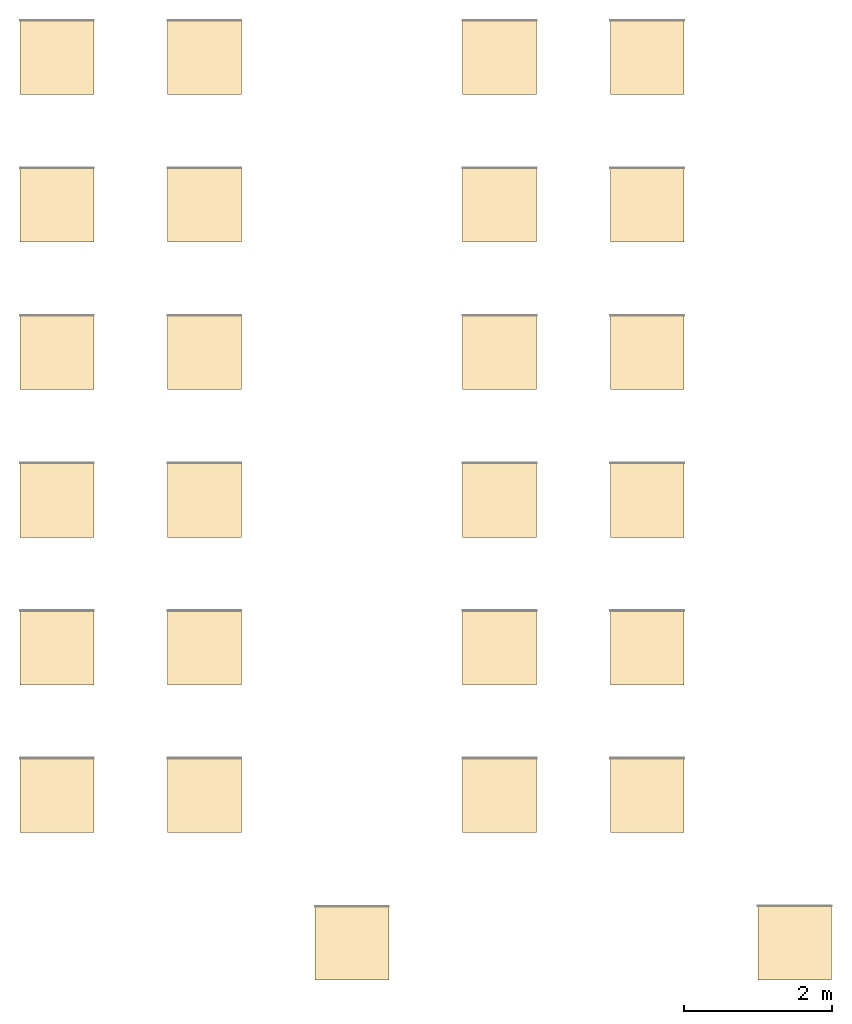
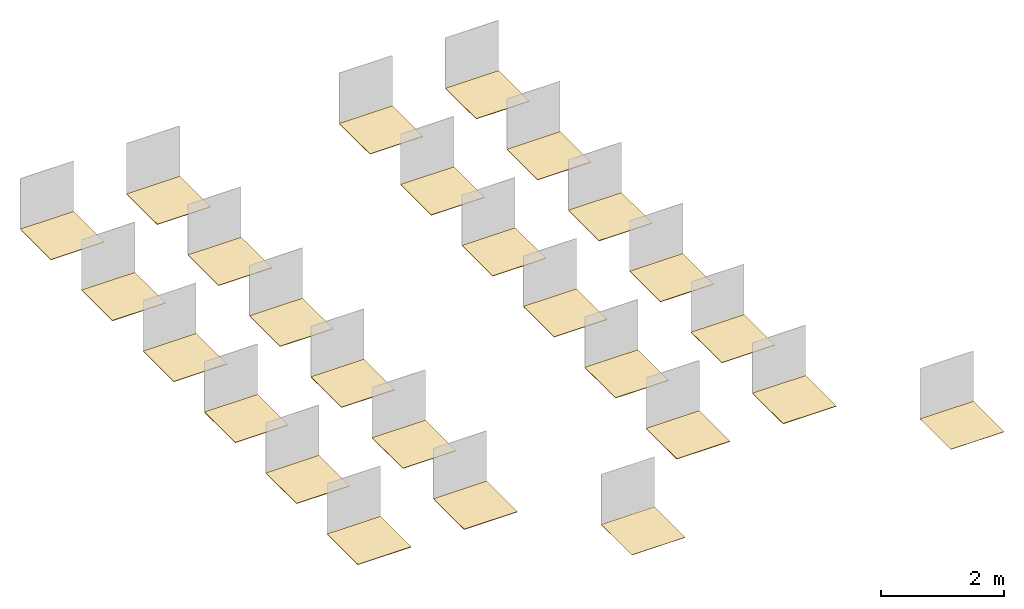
# One storey, part 2 of 2: 26 coverings.
"""IFC2X3 building model written with IfcOpenShell, lengths in millimetres."""

from ifc_helpers import new_model, entity, si_unit, converted_unit, derived_unit, direction, frame, frame_2d, origin, origin_2d_with_axis, place, context, subcontext, project, spatial, rectangle, extrude, material, layer, layer_set, layer_usage, type_object, element, save


model = new_model("IFC2X3")

# Units and contexts
model_context = context("Model", 3, precision=0.01, world=origin(), true_north=direction((6.12303176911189e-17, 1.0)))
body_context = subcontext(model_context, "Body", "Model", "MODEL_VIEW")
ifc_project = project(units=[si_unit("LENGTHUNIT", "METRE", prefix="MILLI"), si_unit("AREAUNIT", "SQUARE_METRE"), si_unit("VOLUMEUNIT", "CUBIC_METRE"), converted_unit("PLANEANGLEUNIT", "DEGREE", entity("IfcRatioMeasure", 0.0174532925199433), si_unit("PLANEANGLEUNIT", "RADIAN"), dimensions=[0, 0, 0, 0, 0, 0, 0]), si_unit("MASSUNIT", "GRAM", prefix="KILO"), derived_unit("MASSDENSITYUNIT", [(si_unit("MASSUNIT", "GRAM", prefix="KILO"), 1), (si_unit("LENGTHUNIT", "METRE"), -3)]), derived_unit("MOMENTOFINERTIAUNIT", [(si_unit("LENGTHUNIT", "METRE"), 4)]), si_unit("TIMEUNIT", "SECOND"), si_unit("FREQUENCYUNIT", "HERTZ"), si_unit("THERMODYNAMICTEMPERATUREUNIT", "DEGREE_CELSIUS"), derived_unit("THERMALTRANSMITTANCEUNIT", [(si_unit("MASSUNIT", "GRAM", prefix="KILO"), 1), (si_unit("THERMODYNAMICTEMPERATUREUNIT", "KELVIN"), -1), (si_unit("TIMEUNIT", "SECOND"), -3)]), derived_unit("VOLUMETRICFLOWRATEUNIT", [(si_unit("LENGTHUNIT", "METRE"), 3), (si_unit("TIMEUNIT", "SECOND"), -1)]), si_unit("ELECTRICCURRENTUNIT", "AMPERE"), si_unit("ELECTRICVOLTAGEUNIT", "VOLT"), si_unit("POWERUNIT", "WATT"), si_unit("FORCEUNIT", "NEWTON", prefix="KILO"), si_unit("ILLUMINANCEUNIT", "LUX"), si_unit("LUMINOUSFLUXUNIT", "LUMEN"), si_unit("LUMINOUSINTENSITYUNIT", "CANDELA"), derived_unit("USERDEFINED", [(si_unit("MASSUNIT", "GRAM", prefix="KILO"), -1), (si_unit("LENGTHUNIT", "METRE"), -2), (si_unit("TIMEUNIT", "SECOND"), 3), (si_unit("LUMINOUSFLUXUNIT", "LUMEN"), 1)]), derived_unit("LINEARVELOCITYUNIT", [(si_unit("LENGTHUNIT", "METRE"), 1), (si_unit("TIMEUNIT", "SECOND"), -1)]), si_unit("PRESSUREUNIT", "PASCAL"), derived_unit("USERDEFINED", [(si_unit("LENGTHUNIT", "METRE"), -2), (si_unit("MASSUNIT", "GRAM", prefix="KILO"), 1), (si_unit("TIMEUNIT", "SECOND"), -2)]), derived_unit("LINEARFORCEUNIT", [(si_unit("MASSUNIT", "GRAM", prefix="KILO"), 1), (si_unit("LENGTHUNIT", "METRE"), 1), (si_unit("TIMEUNIT", "SECOND"), -2), (si_unit("LENGTHUNIT", "METRE"), -1)]), derived_unit("PLANARFORCEUNIT", [(si_unit("MASSUNIT", "GRAM", prefix="KILO"), 1), (si_unit("LENGTHUNIT", "METRE"), 1), (si_unit("TIMEUNIT", "SECOND"), -2), (si_unit("LENGTHUNIT", "METRE"), -2)])], contexts=[model_context])

# Site, building, storey
site_placement = place(None, origin())
site = spatial("IfcSite", under=ifc_project, at=site_placement, Name="Default", CompositionType="ELEMENT")
building_placement = place(site_placement, origin())
building = spatial("IfcBuilding", under=site, at=building_placement, CompositionType="ELEMENT")
storey_placement = place(building_placement, origin())
storey = spatial("IfcBuildingStorey", under=building, at=storey_placement, Name="Level 1", CompositionType="ELEMENT", Elevation=0.0)

# Coverings
ifc_material_1 = material(Name="REVIGRÉS-RULE-BASE-19.6x118.6-SILK-ALLOY")
ifc_layer_1 = layer(ifc_material_1, 10.5)
ifc_layer_set_1 = layer_set([ifc_layer_1], Name="Floor:REVIGRÉS-RULE-BASE-19,6x118,6-SILK-ALLOY")
ifc_layer_usage_1 = layer_usage(ifc_layer_set_1, "AXIS3", "POSITIVE", 0.0)
covering_type_1 = type_object("IfcCoveringType", Name="Floor:REVIGRÉS-RULE-BASE-19,6x118,6-SILK-ALLOY", PredefinedType="FLOORING", material=ifc_layer_set_1)
covering_1_placement = place(storey_placement, origin())
element("IfcCovering", 1, at=covering_1_placement, inside=storey, type_object=covering_type_1, material=ifc_layer_usage_1, Name="Floor:REVIGRÉS-RULE-BASE-19,6x118,6-SILK-ALLOY:2489", ObjectType="Floor:REVIGRÉS-RULE-BASE-19,6x118,6-SILK-ALLOY", PredefinedType="FLOORING", context=body_context, shape_type="SweptSolid", body=[
    extrude(rectangle(XDim=1000.0, YDim=1000.0, at=frame_2d((-1.08002495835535e-12, 0.0), x_axis=(1.0, 0.0))), frame((605.346935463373, 18520.3776243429, 0.0), z_axis=(0.0, 0.0, -1.0), x_axis=(0.0, 1.0, 0.0)), (0.0, 0.0, 1.0), 10.5),
])
ifc_material_2 = material(Name="REVIGRÉS-RULE-BASE-19.6x118.6-SILK-SMOG")
ifc_layer_2 = layer(ifc_material_2, 10.5)
ifc_layer_set_2 = layer_set([ifc_layer_2], Name="Floor:REVIGRÉS-RULE-BASE-19,6x118,6-SILK-SMOG")
ifc_layer_usage_2 = layer_usage(ifc_layer_set_2, "AXIS3", "POSITIVE", 0.0)
covering_type_2 = type_object("IfcCoveringType", Name="Floor:REVIGRÉS-RULE-BASE-19,6x118,6-SILK-SMOG", PredefinedType="FLOORING", material=ifc_layer_set_2)
covering_2_placement = place(storey_placement, origin())
element("IfcCovering", 2, at=covering_2_placement, inside=storey, type_object=covering_type_2, material=ifc_layer_usage_2, Name="Floor:REVIGRÉS-RULE-BASE-19,6x118,6-SILK-SMOG", ObjectType="Floor:REVIGRÉS-RULE-BASE-19,6x118,6-SILK-SMOG", PredefinedType="FLOORING", context=body_context, shape_type="SweptSolid", body=[
    extrude(rectangle(XDim=1000.0, YDim=1000.0, at=frame_2d((1.08002495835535e-12, 0.0), x_axis=(1.0, 0.0))), frame((6605.34693546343, 18520.3776243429, 0.0), z_axis=(0.0, 0.0, -1.0), x_axis=(0.0, 1.0, 0.0)), (0.0, 0.0, 1.0), 10.5),
])
ifc_material_3 = material(Name="REVIGRÉS-RULE-BASE-19.6x118.6-SOFT GRIP-ALLOY")
ifc_layer_3 = layer(ifc_material_3, 10.5)
ifc_layer_set_3 = layer_set([ifc_layer_3], Name="Floor:REVIGRÉS-RULE-BASE-19,6x118,6-SOFT GRIP-ALLOY")
ifc_layer_usage_3 = layer_usage(ifc_layer_set_3, "AXIS3", "POSITIVE", 0.0)
covering_type_3 = type_object("IfcCoveringType", Name="Floor:REVIGRÉS-RULE-BASE-19,6x118,6-SOFT GRIP-ALLOY", PredefinedType="FLOORING", material=ifc_layer_set_3)
covering_3_placement = place(storey_placement, origin())
element("IfcCovering", 3, at=covering_3_placement, inside=storey, type_object=covering_type_3, material=ifc_layer_usage_3, Name="Floor:REVIGRÉS-RULE-BASE-19,6x118,6-SOFT GRIP-ALLOY", ObjectType="Floor:REVIGRÉS-RULE-BASE-19,6x118,6-SOFT GRIP-ALLOY", PredefinedType="FLOORING", context=body_context, shape_type="SweptSolid", body=[
    extrude(rectangle(XDim=1000.0, YDim=1000.0, at=frame_2d((1.08002495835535e-12, 0.0), x_axis=(1.0, 0.0))), frame((2605.34693546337, 18520.3776243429, 0.0), z_axis=(0.0, 0.0, -1.0), x_axis=(0.0, 1.0, 0.0)), (0.0, 0.0, 1.0), 10.5),
])
ifc_material_4 = material(Name="REVIGRÉS-RULE-BASE-19.6x118.6-SOFT GRIP-SMOG")
ifc_layer_4 = layer(ifc_material_4, 10.5)
ifc_layer_set_4 = layer_set([ifc_layer_4], Name="Floor:REVIGRÉS-RULE-BASE-19,6x118,6-SOFT GRIP-SMOG")
ifc_layer_usage_4 = layer_usage(ifc_layer_set_4, "AXIS3", "POSITIVE", 0.0)
covering_type_4 = type_object("IfcCoveringType", Name="Floor:REVIGRÉS-RULE-BASE-19,6x118,6-SOFT GRIP-SMOG", PredefinedType="FLOORING", material=ifc_layer_set_4)
covering_4_placement = place(storey_placement, origin())
element("IfcCovering", 4, at=covering_4_placement, inside=storey, type_object=covering_type_4, material=ifc_layer_usage_4, Name="Floor:REVIGRÉS-RULE-BASE-19,6x118,6-SOFT GRIP-SMOG", ObjectType="Floor:REVIGRÉS-RULE-BASE-19,6x118,6-SOFT GRIP-SMOG", PredefinedType="FLOORING", context=body_context, shape_type="SweptSolid", body=[
    extrude(rectangle(XDim=1000.0, YDim=1000.0, at=frame_2d((1.08002495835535e-12, 0.0), x_axis=(1.0, 0.0))), frame((8605.3469354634, 18520.3776243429, 0.0), z_axis=(0.0, 0.0, -1.0), x_axis=(0.0, 1.0, 0.0)), (0.0, 0.0, 1.0), 10.5),
])
ifc_material_5 = material(Name="REVIGRÉS-RULE-BASE-19.6x178-SILK-ALLOY")
ifc_layer_5 = layer(ifc_material_5, 11.2)
ifc_layer_set_5 = layer_set([ifc_layer_5], Name="Floor:REVIGRÉS-RULE-BASE-19,6x178-SILK-ALLOY")
ifc_layer_usage_5 = layer_usage(ifc_layer_set_5, "AXIS3", "POSITIVE", 0.0)
covering_type_5 = type_object("IfcCoveringType", Name="Floor:REVIGRÉS-RULE-BASE-19,6x178-SILK-ALLOY", PredefinedType="FLOORING", material=ifc_layer_set_5)
covering_5_placement = place(storey_placement, origin())
element("IfcCovering", 5, at=covering_5_placement, inside=storey, type_object=covering_type_5, material=ifc_layer_usage_5, Name="Floor:REVIGRÉS-RULE-BASE-19,6x178-SILK-ALLOY", ObjectType="Floor:REVIGRÉS-RULE-BASE-19,6x178-SILK-ALLOY", PredefinedType="FLOORING", context=body_context, shape_type="SweptSolid", body=[
    extrude(rectangle(XDim=1000.0, YDim=1000.0, at=frame_2d((-1.08002495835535e-12, 0.0), x_axis=(1.0, 0.0))), frame((605.346935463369, 16520.3776243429, 0.0), z_axis=(0.0, 0.0, -1.0), x_axis=(0.0, 1.0, 0.0)), (0.0, 0.0, 1.0), 11.2),
])
ifc_material_6 = material(Name="REVIGRÉS-RULE-BASE-19.6x178-SILK-SMOG")
ifc_layer_6 = layer(ifc_material_6, 11.2)
ifc_layer_set_6 = layer_set([ifc_layer_6], Name="Floor:REVIGRÉS-RULE-BASE-19,6x178-SILK-SMOG")
ifc_layer_usage_6 = layer_usage(ifc_layer_set_6, "AXIS3", "POSITIVE", 0.0)
covering_type_6 = type_object("IfcCoveringType", Name="Floor:REVIGRÉS-RULE-BASE-19,6x178-SILK-SMOG", PredefinedType="FLOORING", material=ifc_layer_set_6)
covering_6_placement = place(storey_placement, origin())
element("IfcCovering", 6, at=covering_6_placement, inside=storey, type_object=covering_type_6, material=ifc_layer_usage_6, Name="Floor:REVIGRÉS-RULE-BASE-19,6x178-SILK-SMOG", ObjectType="Floor:REVIGRÉS-RULE-BASE-19,6x178-SILK-SMOG", PredefinedType="FLOORING", context=body_context, shape_type="SweptSolid", body=[
    extrude(rectangle(XDim=1000.0, YDim=1000.0, at=frame_2d((1.08002495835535e-12, 0.0), x_axis=(1.0, 0.0))), frame((6605.3469354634, 16520.3776243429, 0.0), z_axis=(0.0, 0.0, -1.0), x_axis=(0.0, 1.0, 0.0)), (0.0, 0.0, 1.0), 11.2),
])
ifc_material_7 = material(Name="REVIGRÉS-RULE-BASE-19.6x178-SOFT GRIP-ALLOY")
ifc_layer_7 = layer(ifc_material_7, 11.2)
ifc_layer_set_7 = layer_set([ifc_layer_7], Name="Floor:REVIGRÉS-RULE-BASE-19,6x178-SOFT GRIP-ALLOY")
ifc_layer_usage_7 = layer_usage(ifc_layer_set_7, "AXIS3", "POSITIVE", 0.0)
covering_type_7 = type_object("IfcCoveringType", Name="Floor:REVIGRÉS-RULE-BASE-19,6x178-SOFT GRIP-ALLOY", PredefinedType="FLOORING", material=ifc_layer_set_7)
covering_7_placement = place(storey_placement, origin())
element("IfcCovering", 7, at=covering_7_placement, inside=storey, type_object=covering_type_7, material=ifc_layer_usage_7, Name="Floor:REVIGRÉS-RULE-BASE-19,6x178-SOFT GRIP-ALLOY", ObjectType="Floor:REVIGRÉS-RULE-BASE-19,6x178-SOFT GRIP-ALLOY", PredefinedType="FLOORING", context=body_context, shape_type="SweptSolid", body=[
    extrude(rectangle(XDim=1000.0, YDim=1000.0, at=frame_2d((1.08002495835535e-12, 0.0), x_axis=(1.0, 0.0))), frame((2605.34693546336, 16520.3776243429, 0.0), z_axis=(0.0, 0.0, -1.0), x_axis=(0.0, 1.0, 0.0)), (0.0, 0.0, 1.0), 11.2),
])
ifc_material_8 = material(Name="REVIGRÉS-RULE-BASE-19.6x178-SOFT GRIP-SMOG")
ifc_layer_8 = layer(ifc_material_8, 11.2)
ifc_layer_set_8 = layer_set([ifc_layer_8], Name="Floor:REVIGRÉS-RULE-BASE-19,6x178-SOFT GRIP-SMOG")
ifc_layer_usage_8 = layer_usage(ifc_layer_set_8, "AXIS3", "POSITIVE", 0.0)
covering_type_8 = type_object("IfcCoveringType", Name="Floor:REVIGRÉS-RULE-BASE-19,6x178-SOFT GRIP-SMOG", PredefinedType="FLOORING", material=ifc_layer_set_8)
covering_8_placement = place(storey_placement, origin())
element("IfcCovering", 8, at=covering_8_placement, inside=storey, type_object=covering_type_8, material=ifc_layer_usage_8, Name="Floor:REVIGRÉS-RULE-BASE-19,6x178-SOFT GRIP-SMOG", ObjectType="Floor:REVIGRÉS-RULE-BASE-19,6x178-SOFT GRIP-SMOG", PredefinedType="FLOORING", context=body_context, shape_type="SweptSolid", body=[
    extrude(rectangle(XDim=1000.0, YDim=1000.0, at=frame_2d((-1.08002495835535e-12, 0.0), x_axis=(1.0, 0.0))), frame((8605.3469354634, 16520.3776243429, 0.0), z_axis=(0.0, 0.0, -1.0), x_axis=(0.0, 1.0, 0.0)), (0.0, 0.0, 1.0), 11.2),
])
ifc_material_9 = material(Name="REVIGRÉS-RULE-BASE-29.5x118.6-SILK-ALLOY")
ifc_layer_9 = layer(ifc_material_9, 10.5)
ifc_layer_set_9 = layer_set([ifc_layer_9], Name="Floor:REVIGRÉS-RULE-BASE-29,5x118,6-SILK-ALLOY")
ifc_layer_usage_9 = layer_usage(ifc_layer_set_9, "AXIS3", "POSITIVE", 0.0)
covering_type_9 = type_object("IfcCoveringType", Name="Floor:REVIGRÉS-RULE-BASE-29,5x118,6-SILK-ALLOY", PredefinedType="FLOORING", material=ifc_layer_set_9)
covering_9_placement = place(storey_placement, origin())
element("IfcCovering", 9, at=covering_9_placement, inside=storey, type_object=covering_type_9, material=ifc_layer_usage_9, Name="Floor:REVIGRÉS-RULE-BASE-29,5x118,6-SILK-ALLOY", ObjectType="Floor:REVIGRÉS-RULE-BASE-29,5x118,6-SILK-ALLOY", PredefinedType="FLOORING", context=body_context, shape_type="SweptSolid", body=[
    extrude(rectangle(XDim=1000.0, YDim=1000.0, at=frame_2d((-1.08002495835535e-12, 0.0), x_axis=(1.0, 0.0))), frame((605.346935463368, 14520.3776243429, 0.0), z_axis=(0.0, 0.0, -1.0), x_axis=(0.0, 1.0, 0.0)), (0.0, 0.0, 1.0), 10.5),
])
ifc_material_10 = material(Name="REVIGRÉS-RULE-BASE-29.5x118.6-SOFT GRIP-ALLOY")
ifc_layer_10 = layer(ifc_material_10, 10.5)
ifc_layer_set_10 = layer_set([ifc_layer_10], Name="Floor:REVIGRÉS-RULE-BASE-29,5x118,6-SOFT GRIP-ALLOY")
ifc_layer_usage_10 = layer_usage(ifc_layer_set_10, "AXIS3", "POSITIVE", 0.0)
covering_type_10 = type_object("IfcCoveringType", Name="Floor:REVIGRÉS-RULE-BASE-29,5x118,6-SOFT GRIP-ALLOY", PredefinedType="FLOORING", material=ifc_layer_set_10)
covering_10_placement = place(storey_placement, origin())
element("IfcCovering", 10, at=covering_10_placement, inside=storey, type_object=covering_type_10, material=ifc_layer_usage_10, Name="Floor:REVIGRÉS-RULE-BASE-29,5x118,6-SOFT GRIP-ALLOY", ObjectType="Floor:REVIGRÉS-RULE-BASE-29,5x118,6-SOFT GRIP-ALLOY", PredefinedType="FLOORING", context=body_context, shape_type="SweptSolid", body=[
    extrude(rectangle(XDim=1000.0, YDim=1000.0, at=frame_2d((1.08002495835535e-12, -1.13686837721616e-13), x_axis=(1.0, 0.0))), frame((2605.34693546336, 14520.3776243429, 0.0), z_axis=(0.0, 0.0, -1.0), x_axis=(0.0, 1.0, 0.0)), (0.0, 0.0, 1.0), 10.5),
])
ifc_material_11 = material(Name="REVIGRÉS-RULE-BASE-29.5x178-SILK-ALLOY")
ifc_layer_11 = layer(ifc_material_11, 11.2)
ifc_layer_set_11 = layer_set([ifc_layer_11], Name="Floor:REVIGRÉS-RULE-BASE-29,5x178-SILK-ALLOY")
ifc_layer_usage_11 = layer_usage(ifc_layer_set_11, "AXIS3", "POSITIVE", 0.0)
covering_type_11 = type_object("IfcCoveringType", Name="Floor:REVIGRÉS-RULE-BASE-29,5x178-SILK-ALLOY", PredefinedType="FLOORING", material=ifc_layer_set_11)
covering_11_placement = place(storey_placement, origin())
element("IfcCovering", 11, at=covering_11_placement, inside=storey, type_object=covering_type_11, material=ifc_layer_usage_11, Name="Floor:REVIGRÉS-RULE-BASE-29,5x178-SILK-ALLOY", ObjectType="Floor:REVIGRÉS-RULE-BASE-29,5x178-SILK-ALLOY", PredefinedType="FLOORING", context=body_context, shape_type="SweptSolid", body=[
    extrude(rectangle(XDim=1000.0, YDim=1000.0, at=frame_2d((1.08002495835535e-12, 0.0), x_axis=(1.0, 0.0))), frame((605.346935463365, 12520.3776243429, 0.0), z_axis=(0.0, 0.0, -1.0), x_axis=(0.0, 1.0, 0.0)), (0.0, 0.0, 1.0), 11.2),
])
ifc_material_12 = material(Name="REVIGRÉS-RULE-BASE-29.5x178-SOFT GRIP-ALLOY")
ifc_layer_12 = layer(ifc_material_12, 11.2)
ifc_layer_set_12 = layer_set([ifc_layer_12], Name="Floor:REVIGRÉS-RULE-BASE-29,5x178-SOFT GRIP-ALLOY")
ifc_layer_usage_12 = layer_usage(ifc_layer_set_12, "AXIS3", "POSITIVE", 0.0)
covering_type_12 = type_object("IfcCoveringType", Name="Floor:REVIGRÉS-RULE-BASE-29,5x178-SOFT GRIP-ALLOY", PredefinedType="FLOORING", material=ifc_layer_set_12)
covering_12_placement = place(storey_placement, origin())
element("IfcCovering", 12, at=covering_12_placement, inside=storey, type_object=covering_type_12, material=ifc_layer_usage_12, Name="Floor:REVIGRÉS-RULE-BASE-29,5x178-SOFT GRIP-ALLOY", ObjectType="Floor:REVIGRÉS-RULE-BASE-29,5x178-SOFT GRIP-ALLOY", PredefinedType="FLOORING", context=body_context, shape_type="SweptSolid", body=[
    extrude(rectangle(XDim=1000.0, YDim=1000.0, at=frame_2d((-1.08002495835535e-12, -1.13686837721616e-13), x_axis=(1.0, 0.0))), frame((2605.34693546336, 12520.3776243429, 0.0), z_axis=(0.0, 0.0, -1.0), x_axis=(0.0, 1.0, 0.0)), (0.0, 0.0, 1.0), 11.2),
])
ifc_material_13 = material(Name="REVIGRÉS-RULE-BASE-59.2x118.6-SILK-ALLOY")
ifc_layer_13 = layer(ifc_material_13, 10.5)
ifc_layer_set_13 = layer_set([ifc_layer_13], Name="Floor:REVIGRÉS-RULE-BASE-59,2x118,6-SILK-ALLOY")
ifc_layer_usage_13 = layer_usage(ifc_layer_set_13, "AXIS3", "POSITIVE", 0.0)
covering_type_13 = type_object("IfcCoveringType", Name="Floor:REVIGRÉS-RULE-BASE-59,2x118,6-SILK-ALLOY", PredefinedType="FLOORING", material=ifc_layer_set_13)
covering_13_placement = place(storey_placement, origin())
element("IfcCovering", 13, at=covering_13_placement, inside=storey, type_object=covering_type_13, material=ifc_layer_usage_13, Name="Floor:REVIGRÉS-RULE-BASE-59,2x118,6-SILK-ALLOY", ObjectType="Floor:REVIGRÉS-RULE-BASE-59,2x118,6-SILK-ALLOY", PredefinedType="FLOORING", context=body_context, shape_type="SweptSolid", body=[
    extrude(rectangle(XDim=1000.0, YDim=1000.0, at=frame_2d((1.08002495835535e-12, 0.0), x_axis=(1.0, 0.0))), frame((605.346935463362, 10520.3776243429, 0.0), z_axis=(0.0, 0.0, -1.0), x_axis=(0.0, 1.0, 0.0)), (0.0, 0.0, 1.0), 10.5),
])
ifc_material_14 = material(Name="REVIGRÉS-RULE-BASE-59.2x118.6-SOFT GRIP-ALLOY")
ifc_layer_14 = layer(ifc_material_14, 10.5)
ifc_layer_set_14 = layer_set([ifc_layer_14], Name="Floor:REVIGRÉS-RULE-BASE-59,2x118,6-SOFT GRIP-ALLOY")
ifc_layer_usage_14 = layer_usage(ifc_layer_set_14, "AXIS3", "POSITIVE", 0.0)
covering_type_14 = type_object("IfcCoveringType", Name="Floor:REVIGRÉS-RULE-BASE-59,2x118,6-SOFT GRIP-ALLOY", PredefinedType="FLOORING", material=ifc_layer_set_14)
covering_14_placement = place(storey_placement, origin())
element("IfcCovering", 14, at=covering_14_placement, inside=storey, type_object=covering_type_14, material=ifc_layer_usage_14, Name="Floor:REVIGRÉS-RULE-BASE-59,2x118,6-SOFT GRIP-ALLOY", ObjectType="Floor:REVIGRÉS-RULE-BASE-59,2x118,6-SOFT GRIP-ALLOY", PredefinedType="FLOORING", context=body_context, shape_type="SweptSolid", body=[
    extrude(rectangle(XDim=1000.0, YDim=1000.0, at=frame_2d((-1.08002495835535e-12, -1.13686837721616e-13), x_axis=(1.0, 0.0))), frame((2605.34693546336, 10520.3776243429, 0.0), z_axis=(0.0, 0.0, -1.0), x_axis=(0.0, 1.0, 0.0)), (0.0, 0.0, 1.0), 10.5),
])
ifc_material_15 = material(Name="REVIGRÉS-RULE-BASE-59.2x178-SILK-ALLOY")
ifc_layer_15 = layer(ifc_material_15, 11.2)
ifc_layer_set_15 = layer_set([ifc_layer_15], Name="Floor:REVIGRÉS-RULE-BASE-59,2x178-SILK-ALLOY")
ifc_layer_usage_15 = layer_usage(ifc_layer_set_15, "AXIS3", "POSITIVE", 0.0)
covering_type_15 = type_object("IfcCoveringType", Name="Floor:REVIGRÉS-RULE-BASE-59,2x178-SILK-ALLOY", PredefinedType="FLOORING", material=ifc_layer_set_15)
covering_15_placement = place(storey_placement, origin())
element("IfcCovering", 15, at=covering_15_placement, inside=storey, type_object=covering_type_15, material=ifc_layer_usage_15, Name="Floor:REVIGRÉS-RULE-BASE-59,2x178-SILK-ALLOY", ObjectType="Floor:REVIGRÉS-RULE-BASE-59,2x178-SILK-ALLOY", PredefinedType="FLOORING", context=body_context, shape_type="SweptSolid", body=[
    extrude(rectangle(XDim=1000.0, YDim=1000.0, at=origin_2d_with_axis()), frame((605.346935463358, 8520.3776243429, 0.0), z_axis=(0.0, 0.0, -1.0), x_axis=(0.0, 1.0, 0.0)), (0.0, 0.0, 1.0), 11.2),
])
ifc_material_16 = material(Name="REVIGRÉS-RULE-BASE-59.2x178-SOFT GRIP-ALLOY")
ifc_layer_16 = layer(ifc_material_16, 11.2)
ifc_layer_set_16 = layer_set([ifc_layer_16], Name="Floor:REVIGRÉS-RULE-BASE-59,2x178-SOFT GRIP-ALLOY")
ifc_layer_usage_16 = layer_usage(ifc_layer_set_16, "AXIS3", "POSITIVE", 0.0)
covering_type_16 = type_object("IfcCoveringType", Name="Floor:REVIGRÉS-RULE-BASE-59,2x178-SOFT GRIP-ALLOY", PredefinedType="FLOORING", material=ifc_layer_set_16)
covering_16_placement = place(storey_placement, origin())
element("IfcCovering", 16, at=covering_16_placement, inside=storey, type_object=covering_type_16, material=ifc_layer_usage_16, Name="Floor:REVIGRÉS-RULE-BASE-59,2x178-SOFT GRIP-ALLOY", ObjectType="Floor:REVIGRÉS-RULE-BASE-59,2x178-SOFT GRIP-ALLOY", PredefinedType="FLOORING", context=body_context, shape_type="SweptSolid", body=[
    extrude(rectangle(XDim=1000.0, YDim=1000.0, at=frame_2d((0.0, -1.13686837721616e-13), x_axis=(1.0, 0.0))), frame((2605.34693546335, 8520.37762434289, 0.0), z_axis=(0.0, 0.0, -1.0), x_axis=(0.0, 1.0, 0.0)), (0.0, 0.0, 1.0), 11.2),
])
ifc_material_17 = material(Name="REVIGRÉS-RULE-BASE-29.5x118.6-SILK-SMOG")
ifc_layer_17 = layer(ifc_material_17, 10.5)
ifc_layer_set_17 = layer_set([ifc_layer_17], Name="Floor:REVIGRÉS-RULE-BASE-29,5x118,6-SILK-SMOG")
ifc_layer_usage_17 = layer_usage(ifc_layer_set_17, "AXIS3", "POSITIVE", 0.0)
covering_type_17 = type_object("IfcCoveringType", Name="Floor:REVIGRÉS-RULE-BASE-29,5x118,6-SILK-SMOG", PredefinedType="FLOORING", material=ifc_layer_set_17)
covering_17_placement = place(storey_placement, origin())
element("IfcCovering", 17, at=covering_17_placement, inside=storey, type_object=covering_type_17, material=ifc_layer_usage_17, Name="Floor:REVIGRÉS-RULE-BASE-29,5x118,6-SILK-SMOG", ObjectType="Floor:REVIGRÉS-RULE-BASE-29,5x118,6-SILK-SMOG", PredefinedType="FLOORING", context=body_context, shape_type="SweptSolid", body=[
    extrude(rectangle(XDim=1000.0, YDim=1000.0, at=frame_2d((1.08002495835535e-12, 0.0), x_axis=(1.0, 0.0))), frame((6605.34693546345, 14520.3776243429, 0.0), z_axis=(0.0, 0.0, -1.0), x_axis=(0.0, 1.0, 0.0)), (0.0, 0.0, 1.0), 10.5),
])
ifc_material_18 = material(Name="REVIGRÉS-RULE-BASE-29.5x118.6-SOFT GRIP-SMOG")
ifc_layer_18 = layer(ifc_material_18, 10.5)
ifc_layer_set_18 = layer_set([ifc_layer_18], Name="Floor:REVIGRÉS-RULE-BASE-29,5x118,6-SOFT GRIP-SMOG")
ifc_layer_usage_18 = layer_usage(ifc_layer_set_18, "AXIS3", "POSITIVE", 0.0)
covering_type_18 = type_object("IfcCoveringType", Name="Floor:REVIGRÉS-RULE-BASE-29,5x118,6-SOFT GRIP-SMOG", PredefinedType="FLOORING", material=ifc_layer_set_18)
covering_18_placement = place(storey_placement, origin())
element("IfcCovering", 18, at=covering_18_placement, inside=storey, type_object=covering_type_18, material=ifc_layer_usage_18, Name="Floor:REVIGRÉS-RULE-BASE-29,5x118,6-SOFT GRIP-SMOG", ObjectType="Floor:REVIGRÉS-RULE-BASE-29,5x118,6-SOFT GRIP-SMOG", PredefinedType="FLOORING", context=body_context, shape_type="SweptSolid", body=[
    extrude(rectangle(XDim=1000.0, YDim=1000.0, at=frame_2d((1.08002495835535e-12, 0.0), x_axis=(1.0, 0.0))), frame((8605.34693546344, 14520.3776243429, 0.0), z_axis=(0.0, 0.0, -1.0), x_axis=(0.0, 1.0, 0.0)), (0.0, 0.0, 1.0), 10.5),
])
ifc_material_19 = material(Name="REVIGRÉS-RULE-BASE-29.5x178-SILK-SMOG")
ifc_layer_19 = layer(ifc_material_19, 11.2)
ifc_layer_set_19 = layer_set([ifc_layer_19], Name="Floor:REVIGRÉS-RULE-BASE-29,5x178-SILK-SMOG")
ifc_layer_usage_19 = layer_usage(ifc_layer_set_19, "AXIS3", "POSITIVE", 0.0)
covering_type_19 = type_object("IfcCoveringType", Name="Floor:REVIGRÉS-RULE-BASE-29,5x178-SILK-SMOG", PredefinedType="FLOORING", material=ifc_layer_set_19)
covering_19_placement = place(storey_placement, origin())
element("IfcCovering", 19, at=covering_19_placement, inside=storey, type_object=covering_type_19, material=ifc_layer_usage_19, Name="Floor:REVIGRÉS-RULE-BASE-29,5x178-SILK-SMOG", ObjectType="Floor:REVIGRÉS-RULE-BASE-29,5x178-SILK-SMOG", PredefinedType="FLOORING", context=body_context, shape_type="SweptSolid", body=[
    extrude(rectangle(XDim=1000.0, YDim=1000.0, at=frame_2d((-1.08002495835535e-12, 0.0), x_axis=(1.0, 0.0))), frame((6605.34693546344, 12520.3776243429, 0.0), z_axis=(0.0, 0.0, -1.0), x_axis=(0.0, 1.0, 0.0)), (0.0, 0.0, 1.0), 11.2),
])
ifc_material_20 = material(Name="REVIGRÉS-RULE-BASE-29.5x178-SOFT GRIP-SMOG")
ifc_layer_20 = layer(ifc_material_20, 11.2)
ifc_layer_set_20 = layer_set([ifc_layer_20], Name="Floor:REVIGRÉS-RULE-BASE-29,5x178-SOFT GRIP-SMOG")
ifc_layer_usage_20 = layer_usage(ifc_layer_set_20, "AXIS3", "POSITIVE", 0.0)
covering_type_20 = type_object("IfcCoveringType", Name="Floor:REVIGRÉS-RULE-BASE-29,5x178-SOFT GRIP-SMOG", PredefinedType="FLOORING", material=ifc_layer_set_20)
covering_20_placement = place(storey_placement, origin())
element("IfcCovering", 20, at=covering_20_placement, inside=storey, type_object=covering_type_20, material=ifc_layer_usage_20, Name="Floor:REVIGRÉS-RULE-BASE-29,5x178-SOFT GRIP-SMOG", ObjectType="Floor:REVIGRÉS-RULE-BASE-29,5x178-SOFT GRIP-SMOG", PredefinedType="FLOORING", context=body_context, shape_type="SweptSolid", body=[
    extrude(rectangle(XDim=1000.0, YDim=1000.0, at=frame_2d((1.08002495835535e-12, 0.0), x_axis=(1.0, 0.0))), frame((8605.34693546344, 12520.3776243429, 0.0), z_axis=(0.0, 0.0, -1.0), x_axis=(0.0, 1.0, 0.0)), (0.0, 0.0, 1.0), 11.2),
])
ifc_material_21 = material(Name="REVIGRÉS-RULE-BASE-59.2x118.6-SILK-SMOG")
ifc_layer_21 = layer(ifc_material_21, 10.5)
ifc_layer_set_21 = layer_set([ifc_layer_21], Name="Floor:REVIGRÉS-RULE-BASE-59,2x118,6-SILK-SMOG")
ifc_layer_usage_21 = layer_usage(ifc_layer_set_21, "AXIS3", "POSITIVE", 0.0)
covering_type_21 = type_object("IfcCoveringType", Name="Floor:REVIGRÉS-RULE-BASE-59,2x118,6-SILK-SMOG", PredefinedType="FLOORING", material=ifc_layer_set_21)
covering_21_placement = place(storey_placement, origin())
element("IfcCovering", 21, at=covering_21_placement, inside=storey, type_object=covering_type_21, material=ifc_layer_usage_21, Name="Floor:REVIGRÉS-RULE-BASE-59,2x118,6-SILK-SMOG", ObjectType="Floor:REVIGRÉS-RULE-BASE-59,2x118,6-SILK-SMOG", PredefinedType="FLOORING", context=body_context, shape_type="SweptSolid", body=[
    extrude(rectangle(XDim=1000.0, YDim=1000.0, at=frame_2d((-1.08002495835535e-12, 0.0), x_axis=(1.0, 0.0))), frame((6605.34693546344, 10520.3776243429, 0.0), z_axis=(0.0, 0.0, -1.0), x_axis=(0.0, 1.0, 0.0)), (0.0, 0.0, 1.0), 10.5),
])
ifc_material_22 = material(Name="REVIGRÉS-RULE-BASE-59.2x118.6-SOFT GRIP-SMOG")
ifc_layer_22 = layer(ifc_material_22, 10.5)
ifc_layer_set_22 = layer_set([ifc_layer_22], Name="Floor:REVIGRÉS-RULE-BASE-59,2x118,6-SOFT GRIP-SMOG")
ifc_layer_usage_22 = layer_usage(ifc_layer_set_22, "AXIS3", "POSITIVE", 0.0)
covering_type_22 = type_object("IfcCoveringType", Name="Floor:REVIGRÉS-RULE-BASE-59,2x118,6-SOFT GRIP-SMOG", PredefinedType="FLOORING", material=ifc_layer_set_22)
covering_22_placement = place(storey_placement, origin())
element("IfcCovering", 22, at=covering_22_placement, inside=storey, type_object=covering_type_22, material=ifc_layer_usage_22, Name="Floor:REVIGRÉS-RULE-BASE-59,2x118,6-SOFT GRIP-SMOG", ObjectType="Floor:REVIGRÉS-RULE-BASE-59,2x118,6-SOFT GRIP-SMOG", PredefinedType="FLOORING", context=body_context, shape_type="SweptSolid", body=[
    extrude(rectangle(XDim=1000.0, YDim=1000.0, at=frame_2d((1.08002495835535e-12, 0.0), x_axis=(1.0, 0.0))), frame((8605.34693546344, 10520.3776243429, 0.0), z_axis=(0.0, 0.0, -1.0), x_axis=(0.0, 1.0, 0.0)), (0.0, 0.0, 1.0), 10.5),
])
ifc_material_23 = material(Name="REVIGRÉS-RULE-BASE-59.2x178-SOFT GRIP-SMOG")
ifc_layer_23 = layer(ifc_material_23, 11.2)
ifc_layer_set_23 = layer_set([ifc_layer_23], Name="Floor:REVIGRÉS-RULE-BASE-59,2x178-SOFT GRIP-SMOG")
ifc_layer_usage_23 = layer_usage(ifc_layer_set_23, "AXIS3", "POSITIVE", 0.0)
covering_type_23 = type_object("IfcCoveringType", Name="Floor:REVIGRÉS-RULE-BASE-59,2x178-SOFT GRIP-SMOG", PredefinedType="FLOORING", material=ifc_layer_set_23)
covering_23_placement = place(storey_placement, origin())
element("IfcCovering", 23, at=covering_23_placement, inside=storey, type_object=covering_type_23, material=ifc_layer_usage_23, Name="Floor:REVIGRÉS-RULE-BASE-59,2x178-SOFT GRIP-SMOG", ObjectType="Floor:REVIGRÉS-RULE-BASE-59,2x178-SOFT GRIP-SMOG", PredefinedType="FLOORING", context=body_context, shape_type="SweptSolid", body=[
    extrude(rectangle(XDim=1000.0, YDim=1000.0, at=frame_2d((0.0, -1.08002495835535e-12), x_axis=(1.0, 0.0))), frame((8605.34693546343, 8520.37762434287, 0.0), z_axis=(0.0, 0.0, -1.0), x_axis=(0.0, 1.0, 0.0)), (0.0, 0.0, 1.0), 11.2),
])
ifc_material_24 = material(Name="REVIGRÉS-RULE-BASE-119.8x277.8-RECT-SMOG")
ifc_layer_24 = layer(ifc_material_24, 6.0)
ifc_layer_set_24 = layer_set([ifc_layer_24], Name="Floor:REVIGRÉS-RULE-BASE-119,8x277,8-RECT-SMOG")
ifc_layer_usage_24 = layer_usage(ifc_layer_set_24, "AXIS3", "POSITIVE", 0.0)
covering_type_24 = type_object("IfcCoveringType", Name="Floor:REVIGRÉS-RULE-BASE-119,8x277,8-RECT-SMOG", PredefinedType="FLOORING", material=ifc_layer_set_24)
covering_24_placement = place(storey_placement, origin())
element("IfcCovering", 24, at=covering_24_placement, inside=storey, type_object=covering_type_24, material=ifc_layer_usage_24, Name="Floor:REVIGRÉS-RULE-BASE-119,8x277,8-RECT-SMOG", ObjectType="Floor:REVIGRÉS-RULE-BASE-119,8x277,8-RECT-SMOG", PredefinedType="FLOORING", context=body_context, shape_type="SweptSolid", body=[
    extrude(rectangle(XDim=1000.0, YDim=1000.0, at=frame_2d((0.0, -1.08002495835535e-12), x_axis=(1.0, 0.0))), frame((10605.3469354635, 6520.37762434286, 0.0), z_axis=(0.0, 0.0, -1.0), x_axis=(0.0, 1.0, 0.0)), (0.0, 0.0, 1.0), 6.0),
])
ifc_material_25 = material(Name="REVIGRÉS-RULE-BASE-119.8x277.8-RECT-ALLOY")
ifc_layer_25 = layer(ifc_material_25, 6.0)
ifc_layer_set_25 = layer_set([ifc_layer_25], Name="Floor:REVIGRÉS-RULE-BASE-119,8x277,8-RECT-ALLOY")
ifc_layer_usage_25 = layer_usage(ifc_layer_set_25, "AXIS3", "POSITIVE", 0.0)
covering_type_25 = type_object("IfcCoveringType", Name="Floor:REVIGRÉS-RULE-BASE-119,8x277,8-RECT-ALLOY", PredefinedType="FLOORING", material=ifc_layer_set_25)
covering_25_placement = place(storey_placement, origin())
element("IfcCovering", 25, at=covering_25_placement, inside=storey, type_object=covering_type_25, material=ifc_layer_usage_25, Name="Floor:REVIGRÉS-RULE-BASE-119,8x277,8-RECT-ALLOY", ObjectType="Floor:REVIGRÉS-RULE-BASE-119,8x277,8-RECT-ALLOY", PredefinedType="FLOORING", context=body_context, shape_type="SweptSolid", body=[
    extrude(rectangle(XDim=1000.0, YDim=1000.0, at=frame_2d((-1.08002495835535e-12, -2.55795384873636e-13), x_axis=(1.0, 0.0))), frame((4605.34693546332, 6520.37762434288, 0.0), z_axis=(0.0, 0.0, -1.0), x_axis=(0.0, 1.0, 0.0)), (0.0, 0.0, 1.0), 6.0),
])
ifc_material_26 = material(Name="REVIGRÉS-RULE-BASE-59.2x178-SILK-SMOG")
ifc_layer_26 = layer(ifc_material_26, 11.2)
ifc_layer_set_26 = layer_set([ifc_layer_26], Name="Floor:REVIGRÉS-RULE-BASE-59,2x178-SILK-SMOG")
ifc_layer_usage_26 = layer_usage(ifc_layer_set_26, "AXIS3", "POSITIVE", 0.0)
covering_type_26 = type_object("IfcCoveringType", Name="Floor:REVIGRÉS-RULE-BASE-59,2x178-SILK-SMOG", PredefinedType="FLOORING", material=ifc_layer_set_26)
covering_26_placement = place(storey_placement, origin())
element("IfcCovering", 26, at=covering_26_placement, inside=storey, type_object=covering_type_26, material=ifc_layer_usage_26, Name="Floor:REVIGRÉS-RULE-BASE-59,2x178-SILK-SMOG", ObjectType="Floor:REVIGRÉS-RULE-BASE-59,2x178-SILK-SMOG", PredefinedType="FLOORING", context=body_context, shape_type="SweptSolid", body=[
    extrude(rectangle(XDim=1000.0, YDim=1000.0, at=origin_2d_with_axis()), frame((6605.34693546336, 8520.37762434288, 0.0), z_axis=(0.0, 0.0, -1.0), x_axis=(0.0, 1.0, 0.0)), (0.0, 0.0, 1.0), 11.2),
])

save(model, "model.ifc")
